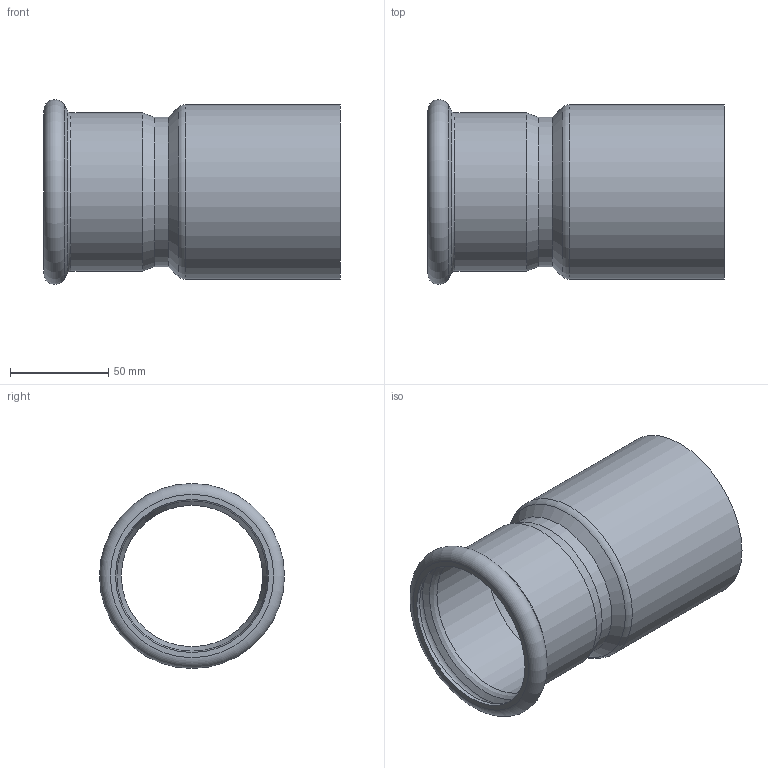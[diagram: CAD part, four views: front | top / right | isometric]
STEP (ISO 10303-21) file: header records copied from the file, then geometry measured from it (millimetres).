
FILE_DESCRIPTION((''),'2;1');
FILE_NAME('G:\Technics\CAD\Bauteile\089\692438976(1).stp','2008-03-05T14:05:10',('herberg'),(''),'Autodesk Inventor 2008','Autodesk Inventor 2008','');
FILE_SCHEMA(('AUTOMOTIVE_DESIGN { 1 0 10303 214 1 1 1 1 }'));
Length unit declared in the file: millimetre
Products named in the file (3): 692438976(1); R_692438976(1); 6924376HM(1)
Assembly tree (2 placements, depth 2):
  692438976(1)
    R_692438976(1)
    6924376HM(1)
Bounding box: 151 x 94.3 x 94.3 mm (x, y, z)
Volume: 84652.8 mm3; surface area: 86620.9 mm2
Topology: 2 solids, 2 shells, 25 faces, 46 edges, 26 vertices
Faces by surface type: cylinder 8, cone 6, plane 5, torus 3, bspline 3
Full cylindrical faces by diameter (mm): 72.1 x2, 76.1 x1, 76.6 x1, 78 x1, 80.6 x1, 84.9 x1, 88.9 x1
Entity records: 714 total; most frequent: CARTESIAN_POINT 212, DIRECTION 104, AXIS2_PLACEMENT_3D 52, ORIENTED_EDGE 50, EDGE_LOOP 50, VERTEX_POINT 25, CIRCLE 25, EDGE_CURVE 25
